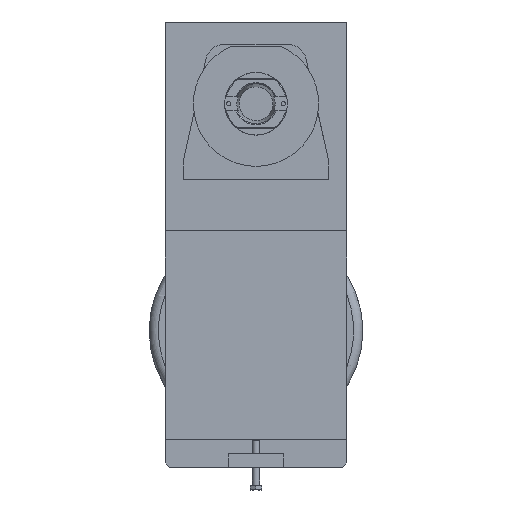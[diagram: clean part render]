
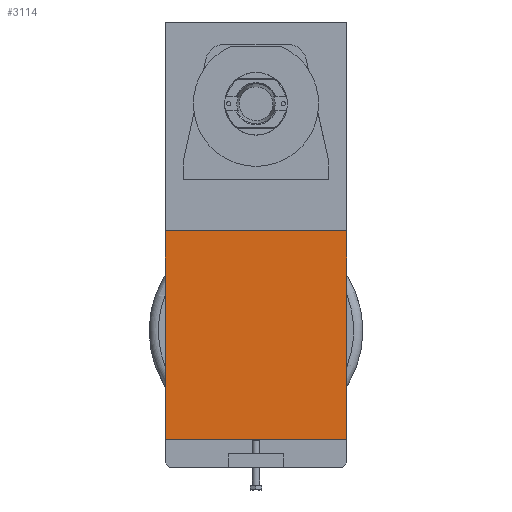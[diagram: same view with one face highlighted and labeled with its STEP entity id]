
A CAD part, front view. The second image highlights one B-rep face of the part: STEP entity #3114.
In plain terms, the highlighted planar face has unit normal (0, -1, 0).
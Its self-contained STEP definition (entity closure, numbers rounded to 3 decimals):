
#3058=CARTESIAN_POINT('',(-100.,-2.,-140.0));
#3059=VERTEX_POINT('',#3058);
#3060=CARTESIAN_POINT('',(100.,-2.,-140.));
#3061=VERTEX_POINT('',#3060);
#3062=CARTESIAN_POINT('',(-100.,-2.,-140.0));
#3063=DIRECTION('',(1.0,0.0,0.0));
#3064=VECTOR('',#3063,200.);
#3065=LINE('',#3062,#3064);
#3066=EDGE_CURVE('',#3059,#3061,#3065,.T.);
#3084=CARTESIAN_POINT('',(0.,-2.,-255.));
#3085=DIRECTION('',(0.0,-1.0,0.0));
#3086=DIRECTION('',(-1.0,0.0,0.0));
#3087=AXIS2_PLACEMENT_3D('',#3084,#3085,#3086);
#3088=PLANE('',#3087);
#3089=CARTESIAN_POINT('',(100.,-2.,-370.0));
#3090=VERTEX_POINT('',#3089);
#3091=CARTESIAN_POINT('',(-100.,-2.,-370.0));
#3092=VERTEX_POINT('',#3091);
#3093=CARTESIAN_POINT('',(100.,-2.,-370.0));
#3094=DIRECTION('',(-1.0,0.0,0.0));
#3095=VECTOR('',#3094,200.);
#3096=LINE('',#3093,#3095);
#3097=EDGE_CURVE('',#3090,#3092,#3096,.T.);
#3098=ORIENTED_EDGE('',*,*,#3097,.F.);
#3099=CARTESIAN_POINT('',(100.,-2.,-140.0));
#3100=DIRECTION('',(0.0,0.0,-1.0));
#3101=VECTOR('',#3100,230.0);
#3102=LINE('',#3099,#3101);
#3103=EDGE_CURVE('',#3061,#3090,#3102,.T.);
#3104=ORIENTED_EDGE('',*,*,#3103,.F.);
#3105=ORIENTED_EDGE('',*,*,#3066,.F.);
#3106=CARTESIAN_POINT('',(-100.,-2.,-370.0));
#3107=DIRECTION('',(0.0,0.0,1.0));
#3108=VECTOR('',#3107,230.0);
#3109=LINE('',#3106,#3108);
#3110=EDGE_CURVE('',#3092,#3059,#3109,.T.);
#3111=ORIENTED_EDGE('',*,*,#3110,.F.);
#3112=EDGE_LOOP('',(#3098,#3104,#3105,#3111));
#3113=FACE_OUTER_BOUND('',#3112,.T.);
#3114=ADVANCED_FACE('',(#3113),#3088,.T.);
